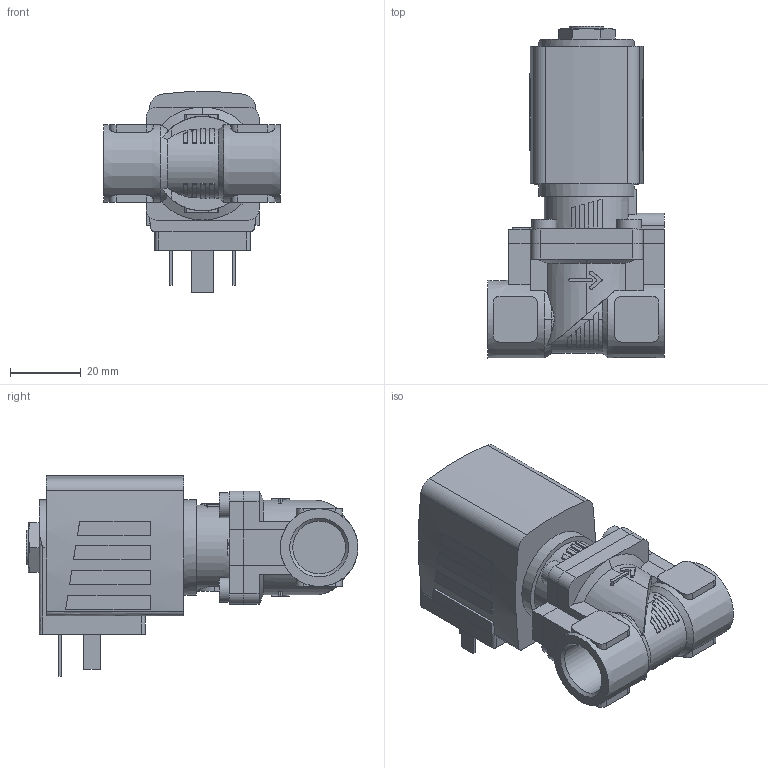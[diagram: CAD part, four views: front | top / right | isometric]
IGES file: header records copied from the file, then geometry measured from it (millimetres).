
Start section: Data from Parasolid IGES Translator 26.0.171, Copyright(c) 2006 Siemens PLM Software. All Rights Reserved.
Global section: file name: 6281-361626-2_2-Way_Solenoid_Valve__Servo-assisted__General_Purpose.igs; native system: By Siemens PLM Incorporated; preprocessor: XPlus GENERIC/IGES 26.0.171; author: Noname; organization: Noname; date: 20240520.113938; units: millimetre
Bounding box: 50 x 94 x 56.91 mm (x, y, z)
Surface area: 22211.6 mm2 (no closed solid volume)
Topology: 0 solids, 0 shells, 342 faces, 1792 edges, 1786 vertices
Faces by surface type: extrusion 225, revolution 117
